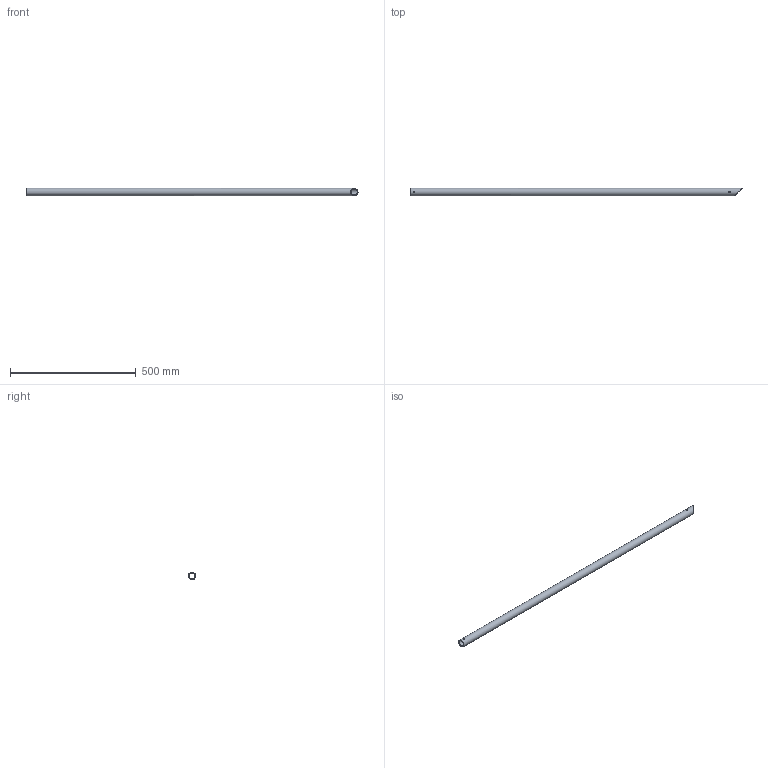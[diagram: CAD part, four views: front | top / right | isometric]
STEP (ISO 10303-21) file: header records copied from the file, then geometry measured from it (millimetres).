
FILE_DESCRIPTION(/* description */ (''),/* implementation_level */ '2;1');
FILE_NAME(/* name */ 'Pos111-Precisie buis 30x3-Aluminium-1st',/* time_stamp */ '2024-08-06T11:49:42+02:00',/* author */ (''),/* organization */ (''),/* preprocessor_version */ 'ST-DEVELOPER v16.5',/* originating_system */ 'HiCAD 2024 2901.2 Build 361',/* authorisation */ '');
FILE_SCHEMA (('AUTOMOTIVE_DESIGN { 1 0 10303 214 1 1 1 1 }'));
Length unit declared in the file: millimetre
Products named in the file (1): Pos111-Precisie buis 30x3-Aluminium-1st
Bounding box: 1320.99 x 30 x 30 mm (x, y, z)
Volume: 332218.2 mm3; surface area: 222188.3 mm2
Topology: 1 solids, 1 shells, 6 faces, 26 edges, 18 vertices
Faces by surface type: cylinder 4, plane 2
Full cylindrical faces by diameter (mm): 5 x2, 24 x1, 30 x1
Entity records: 274 total; most frequent: CARTESIAN_POINT 58, DIRECTION 20, PRESENTATION_STYLE_ASSIGNMENT 17, COLOUR_RGB 17, DRAUGHTING_PRE_DEFINED_CURVE_FONT 16, CURVE_STYLE 16, OVER_RIDING_STYLED_ITEM 16, ORIENTED_EDGE 16
